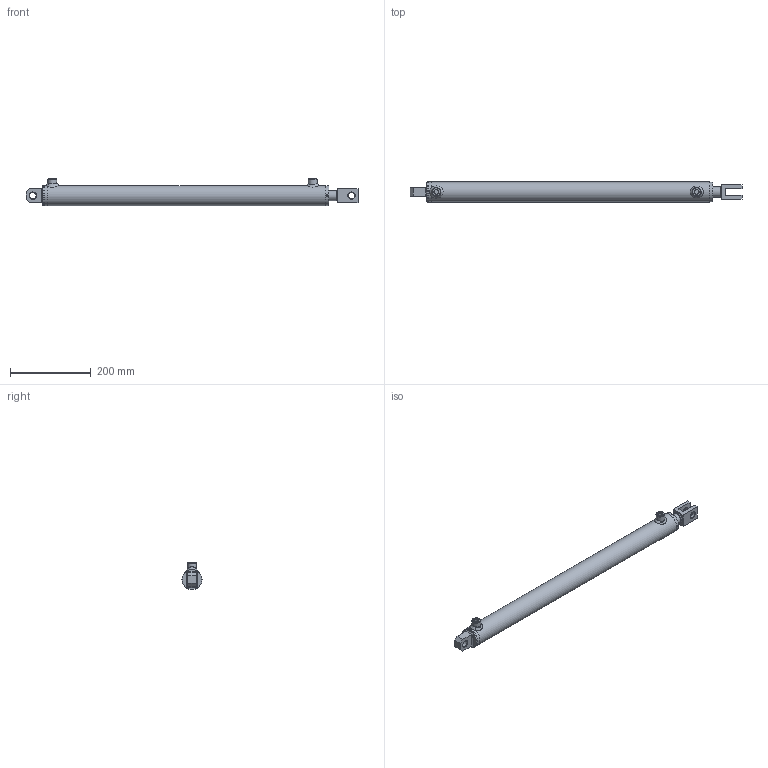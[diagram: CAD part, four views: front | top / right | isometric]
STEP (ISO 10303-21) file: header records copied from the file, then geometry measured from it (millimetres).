
FILE_DESCRIPTION( ( 'Unknown' ), '1' );
FILE_NAME( 'E:/LIBRERIA_3d/CILINDRI/HM5/HM51250600.stp', 'Unknown', ( 'Unknown' ), ( 'Unknown' ), 'PSStep 17.0.49', 'Unknown', ' ' );
FILE_SCHEMA( ( 'AUTOMOTIVE_DESIGN { 1 0 10303 214 1 1 1 1 }' ) );
Length unit declared in the file: millimetre
Products named in the file (28): CG05004025; STL1500600-oa7; Saldatura d'angolo 1-oa5; FTM1500600-oa6; CBSC220400; CT00040015; HM01250600; Saldatura con preparazione 1-oa3; Saldatura d'angolo 1-oa4; CF00040050; CBS0400000; CDA0001415; APG0400000; SBL2510600; Assem1; CFS0000016; COF1600000; Saldatura d'angolo 1-oa0; Saldatura con preparazione 1-oa1; Saldatura d'angolo 2-oa2
Assembly tree (20 placements, depth 4):
  Saldatura d'angolo 1-oa5
  Saldatura d'angolo 1-oa5
  Saldatura d'angolo 1-oa4
  Saldatura d'angolo 1-oa4
  Assem1
    CFS0000016
    COF1600000
    Saldatura con preparazione 1-oa1
    Saldatura con preparazione 1-oa1
    HM01250600
      Saldatura con preparazione 1-oa3
      Saldatura con preparazione 1-oa3
      CF00040050
      CBS0400000
      CDA0001415
      APG0400000  x2
      SBL2510600
      CG05004025
        CG05004025
      CT00040015
        CT00040015
      STL1500600-oa7
        FTM1500600-oa6
        CBSC220400
Bounding box: 822 x 50 x 68 mm (x, y, z)
Volume: 980187.7 mm3; surface area: 323911.6 mm2
Topology: 24 solids, 24 shells, 259 faces, 543 edges, 337 vertices
Faces by surface type: plane 96, cylinder 65, cone 48, torus 32, bspline 18
Full cylindrical faces by diameter (mm): 4 x4, 4.25 x3, 7 x2, 11.445 x2, 12 x2, 13.1 x2, 14 x2, 15 x3, 16.2 x3, 19.5 x1, 20 x2, 22 x3, 25 x8, 27 x1, 28 x1, 30 x1, 33 x1, 33.6 x1, 35 x1, 35.4 x2, 38.5 x2, 39.9 x1, 40 x1, 40.3 x1, 40.5 x1, 40.6 x1, 41 x1, 42 x3, 42.5 x1, 44 x1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
Entity records: 10590 total; most frequent: CARTESIAN_POINT 3845, DIRECTION 1020, ORIENTED_EDGE 672, AXIS2_PLACEMENT_3D 456, EDGE_LOOP 446, FACE_OUTER_BOUND 350, EDGE_CURVE 336, VERTEX_POINT 285
